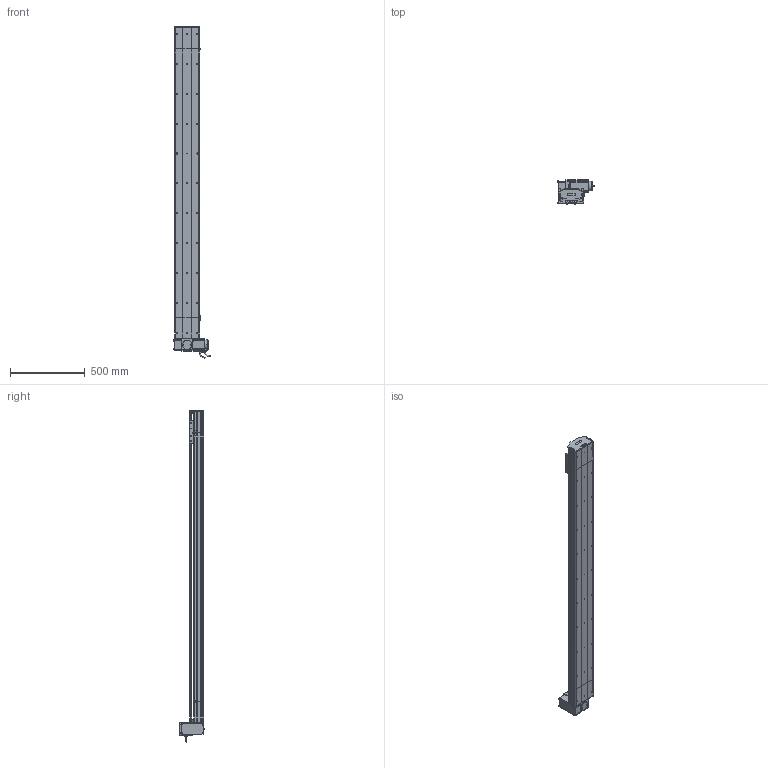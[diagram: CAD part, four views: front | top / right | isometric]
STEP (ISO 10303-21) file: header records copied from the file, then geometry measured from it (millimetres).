
FILE_DESCRIPTION (( 'STEP AP214' ), '1' );
FILE_NAME ('D17 TBH RT S1800.STEP', '2010-06-30T08:19:07', ( 'Christophe Gaillard' ), ( 'SGA' ), 'SwSTEP 2.0', 'SolidWorks 2010', '' );
FILE_SCHEMA (( 'AUTOMOTIVE_DESIGN' ));
Length unit declared in the file: millimetre
Products named in the file (40): corpl head D17 _Default; Head RT D17B_Default; D17 TBH RT S1800; couvercle D17B course L1800_Default; Couroie+ rail D17 Course 1800 ; corp D17B 1800_Default; course 1800 D17B_Default; vis M5 L12_Default; vis M5 L25_Default; vis M5 L8 90°_Default; couvercle D17B_Default; guide D17; Chariot D17; chariot D17S_Default; Couroie tail D17B_Default; poulie tail_Default; plaque de  bout tail D17B_Default; Rail D17B; Arbre+rail head D17B; plaque de  bout head D17B RT_Default; couvercle D17B head_Default; poulie head_Default; vis M5 L5_Default; cache D17_Default; avant 90BLDC125A-640; Moteur motionking 90BLDC125A-640; couroie head D17_Default; Conecteur_Default; Conecteur2_Default; codeur 90BLDC125-640; corps 90BLDC125A-640; vis M5 L16_Default; Plaque racord D17_Default; vis M5 L70_Default; Renvoi RT_Default; cache arbre D17_Default; Vis M5 L16-2_Default; tete d''axe poulie D17B; corpl tail D17B_Default; Tail D17B_Default
Assembly tree (70 placements, depth 4):
  D17 TBH RT S1800
    course 1800 D17B_Default
      Couroie+ rail D17 Course 1800 
      couvercle D17B course L1800_Default
      corp D17B 1800_Default
    Tail D17B_Default
      vis M5 L25_Default  x2
      Rail D17B
      corpl tail D17B_Default
      vis M5 L8 90°_Default  x2
      poulie tail_Default
      vis M5 L12_Default  x4
      plaque de  bout tail D17B_Default
      couvercle D17B_Default
      Couroie tail D17B_Default
      tete d''axe poulie D17B
    chariot D17S_Default
      vis M5 L12_Default  x4
      Chariot D17
      guide D17  x2
    Head RT D17B_Default
      vis M5 L70_Default  x4
      vis M5 L5_Default  x4
      Renvoi RT_Default
      vis M5 L12_Default  x8
      cache arbre D17_Default
      couroie head D17_Default
      vis M5 L16_Default  x2
      Plaque racord D17_Default
      poulie head_Default
      vis M5 L25_Default  x2
      cache D17_Default  x2
      corpl head D17 _Default
      plaque de  bout head D17B RT_Default
      couvercle D17B head_Default
      Vis M5 L16-2_Default  x4
      Moteur motionking 90BLDC125A-640
        Conecteur2_Default
        codeur 90BLDC125-640
        Conecteur_Default
        avant 90BLDC125A-640
        corps 90BLDC125A-640
      Arbre+rail head D17B
Bounding box: 245.2 x 166.15 x 2223.95 mm (x, y, z)
Volume: 13286371.9 mm3; surface area: 3799928.5 mm2
Topology: 94 solids, 94 shells, 2701 faces, 6821 edges, 4390 vertices
Faces by surface type: plane 1607, cylinder 781, bspline 136, cone 88, torus 85, sphere 4
Entity records: 84768 total; most frequent: CARTESIAN_POINT 25033, ORIENTED_EDGE 10414, DIRECTION 9884, EDGE_CURVE 5207, VECTOR 3454, LINE 3454, VERTEX_POINT 3414, AXIS2_PLACEMENT_3D 3215
